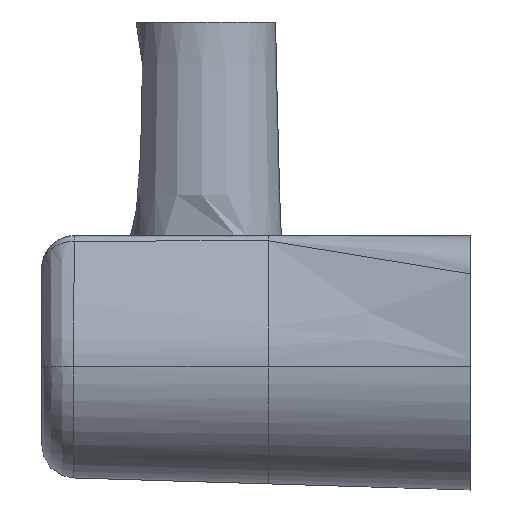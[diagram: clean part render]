
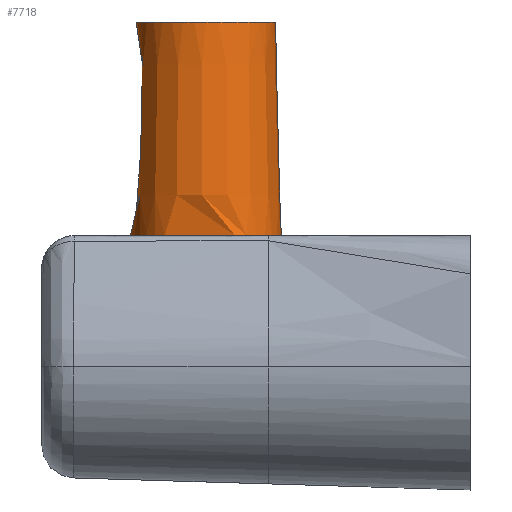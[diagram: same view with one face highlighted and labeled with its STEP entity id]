
A CAD part, left-side view. The second image highlights one B-rep face of the part: STEP entity #7718.
In plain terms, the highlighted conical face has half-angle 1.5 degrees and reference radius 4.25 mm.
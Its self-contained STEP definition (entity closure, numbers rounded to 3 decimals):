
#21=CONICAL_SURFACE('',#8156,4.25,0.026);
#123=CIRCLE('',#8142,4.59);
#125=CIRCLE('',#8148,4.59);
#129=CIRCLE('',#8157,4.25);
#1826=ORIENTED_EDGE('',*,*,#4017,.F.);
#1827=ORIENTED_EDGE('',*,*,#4062,.F.);
#1828=ORIENTED_EDGE('',*,*,#4059,.F.);
#1829=ORIENTED_EDGE('',*,*,#4068,.T.);
#1830=ORIENTED_EDGE('',*,*,#4080,.T.);
#4017=EDGE_CURVE('',#5190,#5191,#123,.T.);
#4059=EDGE_CURVE('',#5221,#5222,#125,.T.);
#4062=EDGE_CURVE('',#5222,#5190,#5986,.T.);
#4068=EDGE_CURVE('',#5221,#5191,#5988,.T.);
#4080=EDGE_CURVE('',#5229,#5229,#129,.T.);
#5190=VERTEX_POINT('',#13136);
#5191=VERTEX_POINT('',#13138);
#5221=VERTEX_POINT('',#13656);
#5222=VERTEX_POINT('',#13658);
#5229=VERTEX_POINT('',#14658);
#5986=B_SPLINE_CURVE_WITH_KNOTS('',3,(#13689,#13690,#13691,#13692,#13693),
 .UNSPECIFIED.,.F.,.F.,(4,1,4),(0.,0.002,0.004),
 .UNSPECIFIED.);
#5988=B_SPLINE_CURVE_WITH_KNOTS('',3,(#13809,#13810,#13811,#13812),
 .UNSPECIFIED.,.F.,.F.,(4,4),(-0.008,-0.004),
 .UNSPECIFIED.);
#6537=EDGE_LOOP('',(#1826,#1827,#1828,#1829));
#6538=EDGE_LOOP('',(#1830));
#7057=FACE_BOUND('',#6537,.T.);
#7058=FACE_BOUND('',#6538,.T.);
#7718=ADVANCED_FACE('',(#7057,#7058),#21,.T.);
#8142=AXIS2_PLACEMENT_3D('',#13137,#8642,#8643);
#8148=AXIS2_PLACEMENT_3D('',#13657,#8659,#8660);
#8156=AXIS2_PLACEMENT_3D('',#14656,#8679,#8680);
#8157=AXIS2_PLACEMENT_3D('',#14657,#8681,#8682);
#8642=DIRECTION('',(0.,0.,-1.));
#8643=DIRECTION('',(-1.,0.,0.));
#8659=DIRECTION('',(0.,0.,-1.));
#8660=DIRECTION('',(-1.,0.,0.));
#8679=DIRECTION('',(0.,0.,-1.));
#8680=DIRECTION('',(1.,0.,0.));
#8681=DIRECTION('',(0.,0.,-1.));
#8682=DIRECTION('',(-1.,0.,0.));
#13136=CARTESIAN_POINT('',(4.233,14.325,8.));
#13137=CARTESIAN_POINT('',(0.,16.1,8.));
#13138=CARTESIAN_POINT('',(-4.233,14.325,8.));
#13656=CARTESIAN_POINT('',(-4.204,17.943,8.));
#13657=CARTESIAN_POINT('',(0.,16.1,8.));
#13658=CARTESIAN_POINT('',(4.204,17.943,8.));
#13689=CARTESIAN_POINT('',(4.204,17.943,8.));
#13690=CARTESIAN_POINT('',(4.455,17.372,8.));
#13691=CARTESIAN_POINT('',(4.724,16.159,7.657));
#13692=CARTESIAN_POINT('',(4.477,14.905,7.999));
#13693=CARTESIAN_POINT('',(4.233,14.325,8.));
#13809=CARTESIAN_POINT('',(2.437,19.991,7.993));
#13810=CARTESIAN_POINT('',(1.37,20.658,7.988));
#13811=CARTESIAN_POINT('',(0.04,20.855,7.991));
#13812=CARTESIAN_POINT('',(-1.16,20.542,7.995));
#14656=CARTESIAN_POINT('',(0.,16.1,21.));
#14657=CARTESIAN_POINT('',(0.,16.1,21.));
#14658=CARTESIAN_POINT('',(-4.25,16.1,21.));
